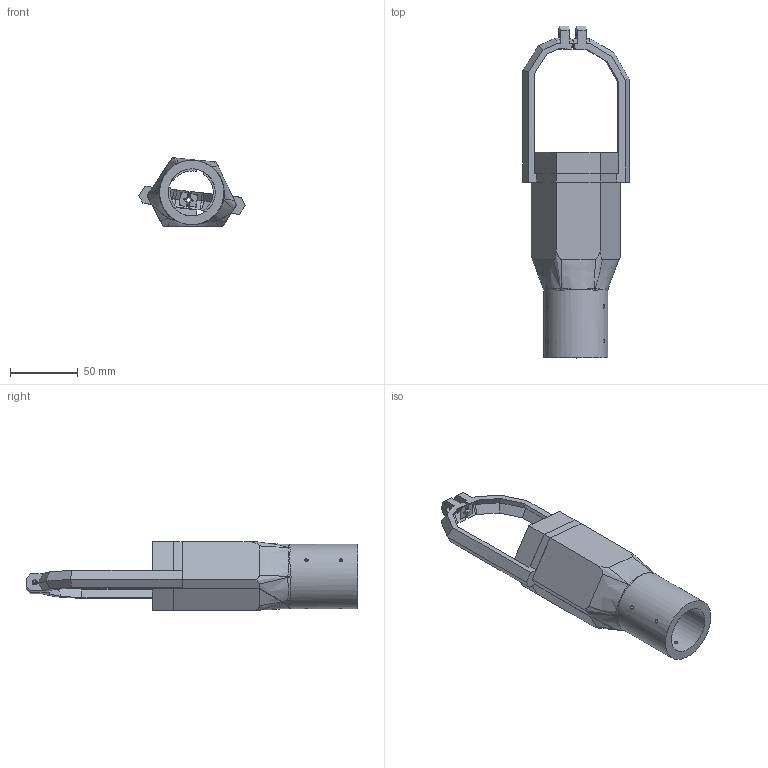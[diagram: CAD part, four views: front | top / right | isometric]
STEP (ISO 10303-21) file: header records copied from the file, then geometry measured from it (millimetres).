
FILE_DESCRIPTION(/* description */ (''),/* implementation_level */ '2;1');
FILE_NAME(/* name */ 'C:\Users\Z\Documents\Inventor\MariahStaff\cane mount.stp',/* time_stamp */ '2015-10-30T08:34:14-07:00',/* author */ ('Z'),/* organization */ (''),/* preprocessor_version */ 'ST-DEVELOPER v16.1',/* originating_system */ 'Autodesk Inventor 2016',/* authorisation */ '');
FILE_SCHEMA (('AUTOMOTIVE_DESIGN { 1 0 10303 214 3 1 1 }'));
Length unit declared in the file: inch
Products named in the file (1): cane mount
Bounding box: 78.8 x 245.75 x 50.82 mm (x, y, z)
Volume: 133971.5 mm3; surface area: 69527.4 mm2
Topology: 4 solids, 4 shells, 279 faces, 762 edges, 493 vertices
Faces by surface type: plane 192, bspline 52, cylinder 35
Full cylindrical faces by diameter (mm): 2.464 x6, 3.048 x1, 3.607 x10, 3.81 x1, 6.502 x4, 34.925 x1, 44.539 x1, 47.625 x1
Entity records: 10023 total; most frequent: CARTESIAN_POINT 3433, ORIENTED_EDGE 1442, DIRECTION 1136, EDGE_CURVE 721, VERTEX_POINT 477, LINE 472, VECTOR 472, EDGE_LOOP 346
